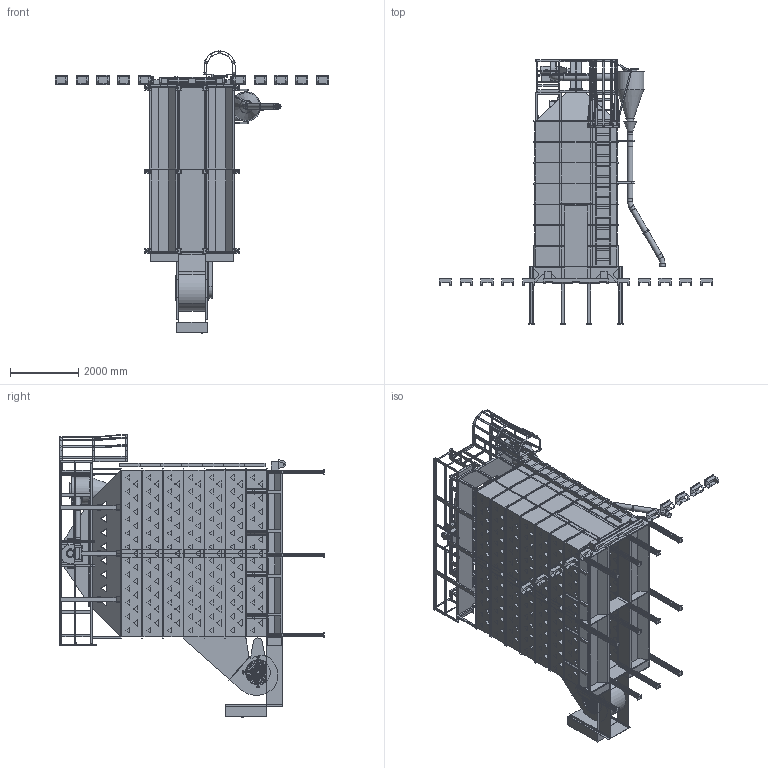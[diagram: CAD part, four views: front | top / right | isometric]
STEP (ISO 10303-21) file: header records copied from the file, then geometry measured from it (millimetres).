
FILE_DESCRIPTION(/* description */ ('PLAN AND ELEVATION VIEW FOR D1690 WITH ROOF & PRE-CLEANER'),/* implementation_level */ '2;1');
FILE_NAME(/* name */ 'C:\Engineering\Designs\Sales\Dryer\Workspaces\D16 All\D1690PC.stp',/* time_stamp */ '2025-01-06T16:43:49-06:00',/* author */ ('max.fleming'),/* organization */ (''),/* preprocessor_version */ 'ST-DEVELOPER v18.1',/* originating_system */ 'Autodesk Inventor 2022',/* authorisation */ '');
FILE_SCHEMA (('AUTOMOTIVE_DESIGN { 1 0 10303 214 3 1 1 }'));
Products named in the file (34): D1690PC; 16FT FRAME; 8FT LHRH FRAME; 16FT ROOF GF; 8FTRoof GF LHRH; 16FT BODY TIER; LH Body; RH Body; LH Body_MIR6; RH Body_MIR6; Outside Splice; Trans & Blower 16FT; Standard Size End Plenum Panels; Ladder 2' section; Stiffeners; 6'' CROSS AUGER; Short Tongue; Leg Kit-02; 16FT PRE CLEANER RH DIS; 16FT Pre Cleaner Grav Assy; Aspirator Blower CCW; Aspirator Blower; NEMA MOTOR 182T; 16FT FULL CATWALK W PRE CLEANER MOUNTS; Pre-Cleaner Cyclone; 16FT Aspirator 8in Pipe; 6in PIPE SLEEVE 11L; 6IN ELBOW; 6in PIPE 60L; PIPE SUPPORT; Ladder Cage; 6IN HANGER; Belt Shield; Screen Guard 16
Assembly tree (75 placements, depth 4):
  D1690PC
    16FT FRAME
      8FT LHRH FRAME  x2
    16FT ROOF GF
      8FTRoof GF LHRH  x2
    16FT BODY TIER  x7
      LH Body
      RH Body
      LH Body_MIR6
      RH Body_MIR6
      Outside Splice
    Leg Kit-02  x12
    Trans & Blower 16FT
    Standard Size End Plenum Panels  x11
    Stiffeners  x8
    Short Tongue
    16FT PRE CLEANER RH DIS
      16FT Pre Cleaner Grav Assy
      Aspirator Blower CCW
        Aspirator Blower
        NEMA MOTOR 182T
      16FT FULL CATWALK W PRE CLEANER MOUNTS
      Pre-Cleaner Cyclone
      16FT Aspirator 8in Pipe
    6in PIPE SLEEVE 11L
    6in PIPE 60L  x3
    6IN ELBOW  x2
    6IN HANGER  x3
    PIPE SUPPORT  x2
    Ladder Cage
    Belt Shield
    Screen Guard 16  x2
  Ladder 2' section
  6'' CROSS AUGER
Bounding box: 8007.35 x 7729.94 x 8280.4 mm (x, y, z)
Volume: 39546767128 mm3; surface area: 594041259.6 mm2
Topology: 147 solids, 147 shells, 8541 faces, 23515 edges, 15395 vertices
Faces by surface type: plane 6568, cylinder 1921, bspline 34, torus 12, cone 4, sphere 2
Full cylindrical faces by diameter (mm): 10.319 x4, 11.112 x15, 12.7 x40, 15.875 x48, 28.575 x1, 38.1 x1, 44.45 x17, 50.8 x1, 95.25 x2, 127 x2, 139.7 x1, 150.622 x4, 152.4 x5, 154.051 x4, 155.575 x4, 190.5 x1, 196.85 x1, 198.12 x3, 203.2 x4, 204.851 x2, 206.375 x2, 215.9 x1, 228.6 x1, 248.92 x1, 254 x1, 273.05 x1, 317.5 x1, 393.7 x1, 406.4 x1, 469.9 x1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
Entity records: 135995 total; most frequent: CARTESIAN_POINT 24512, ORIENTED_EDGE 23326, DIRECTION 21560, EDGE_CURVE 11663, LINE 9854, VECTOR 9854, VERTEX_POINT 7628, AXIS2_PLACEMENT_3D 5853
